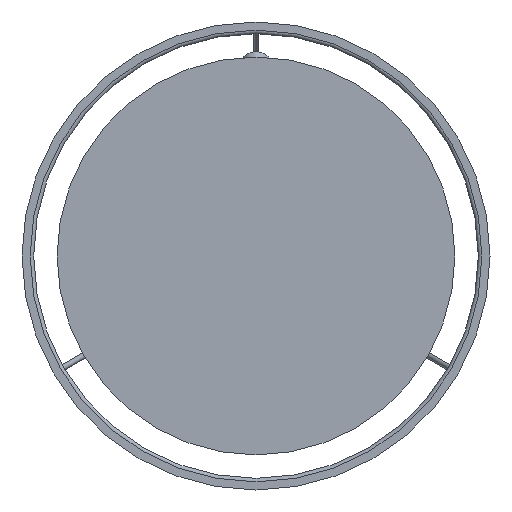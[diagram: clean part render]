
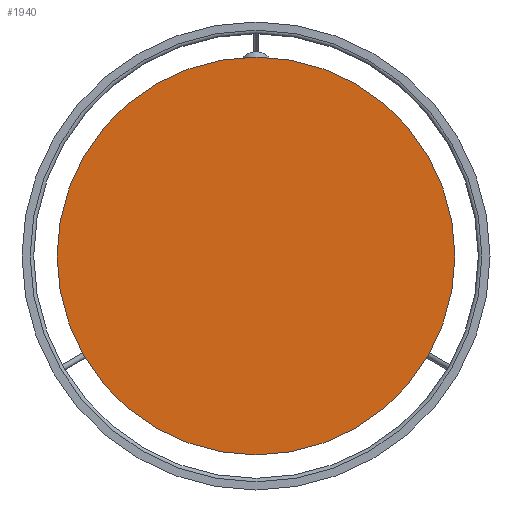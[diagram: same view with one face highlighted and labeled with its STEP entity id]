
A CAD part, front view. The second image highlights one B-rep face of the part: STEP entity #1940.
In plain terms, the highlighted planar face has unit normal (0, -1, 0).
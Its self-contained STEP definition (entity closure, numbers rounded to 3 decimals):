
#161=PLANE('',#2191);
#275=FACE_OUTER_BOUND('',#432,.T.);
#432=EDGE_LOOP('',(#1687));
#819=CIRCLE('',#2189,85.);
#992=VERTEX_POINT('',#3350);
#1230=EDGE_CURVE('',#992,#992,#819,.T.);
#1687=ORIENTED_EDGE('',*,*,#1230,.F.);
#1940=ADVANCED_FACE('',(#275),#161,.F.);
#2189=AXIS2_PLACEMENT_3D('',#3352,#2745,#2746);
#2191=AXIS2_PLACEMENT_3D('',#3354,#2749,#2750);
#2745=DIRECTION('center_axis',(0.,1.,0.));
#2746=DIRECTION('ref_axis',(1.,0.,0.));
#2749=DIRECTION('center_axis',(0.,1.,0.));
#2750=DIRECTION('ref_axis',(1.,0.,0.));
#3350=CARTESIAN_POINT('',(-85.,0.,0.));
#3352=CARTESIAN_POINT('Origin',(0.,0.,0.));
#3354=CARTESIAN_POINT('Origin',(0.,0.,0.));
